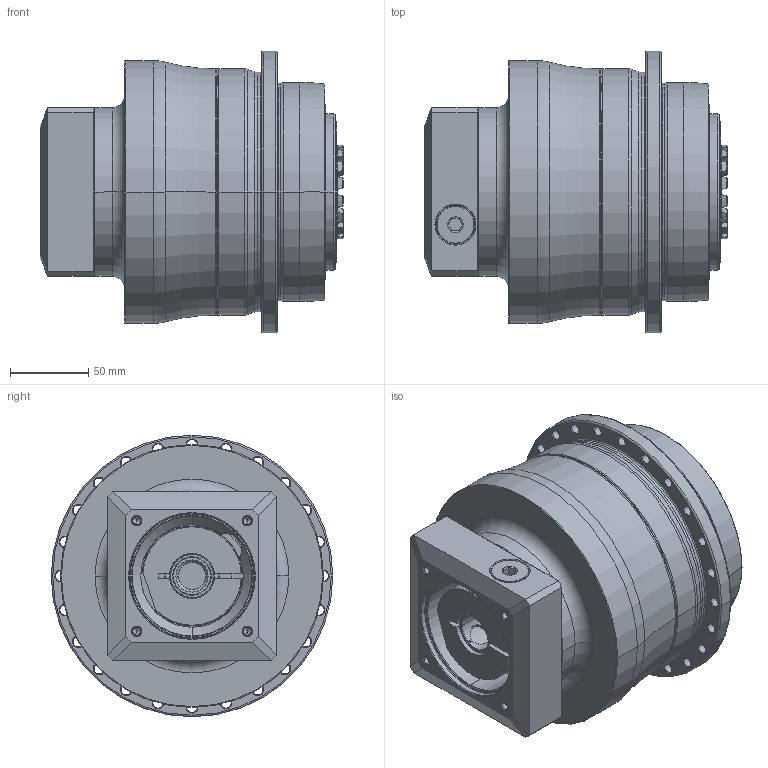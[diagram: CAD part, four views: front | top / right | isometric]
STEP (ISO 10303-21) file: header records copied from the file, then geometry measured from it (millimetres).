
FILE_DESCRIPTION((''),'2;1');
FILE_NAME('APC140_2ST_24-P0409510201_ASM','2018-06-28T',('d01226'),(''),'PRO/ENGINEER BY PARAMETRIC TECHNOLOGY CORPORATION, 2008410','PRO/ENGINEER BY PARAMETRIC TECHNOLOGY CORPORATION, 2008410','');
FILE_SCHEMA(('CONFIG_CONTROL_DESIGN'));
Length unit declared in the file: millimetre
Products named in the file (9): P0278501003; P03595D0103; P1317510101; P0503500010; P0912451001; P1211500001; P0409510201; 21711418017; APC140_2ST_24-P0409510201_ASM
Assembly tree (8 placements, depth 2):
  APC140_2ST_24-P0409510201_ASM
    P0278501003
    P03595D0103
    P1317510101
    P0503500010
    P0912451001
    P1211500001
    P0409510201
    21711418017
Bounding box: 193.1 x 180 x 180 mm (x, y, z)
Volume: 2806278.4 mm3; surface area: 310735.8 mm2
Topology: 9 solids, 19 shells, 672 faces, 1624 edges, 991 vertices
Faces by surface type: cone 223, cylinder 211, plane 122, torus 102, bspline 14
Entity records: 25239 total; most frequent: CARTESIAN_POINT 9125, DIRECTION 3597, ORIENTED_EDGE 3170, EDGE_CURVE 1606, AXIS2_PLACEMENT_3D 1561, VERTEX_POINT 991, CIRCLE 876, EDGE_LOOP 775
